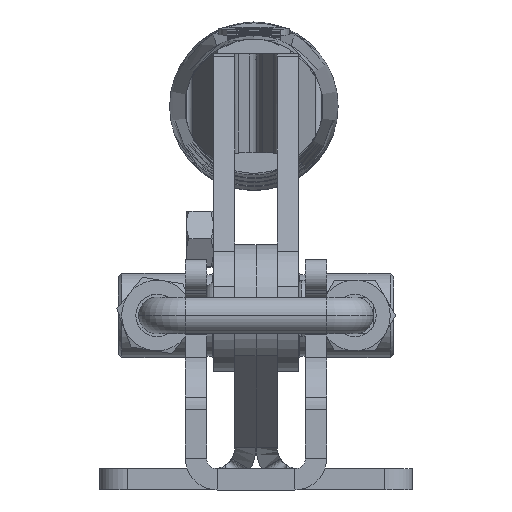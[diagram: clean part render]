
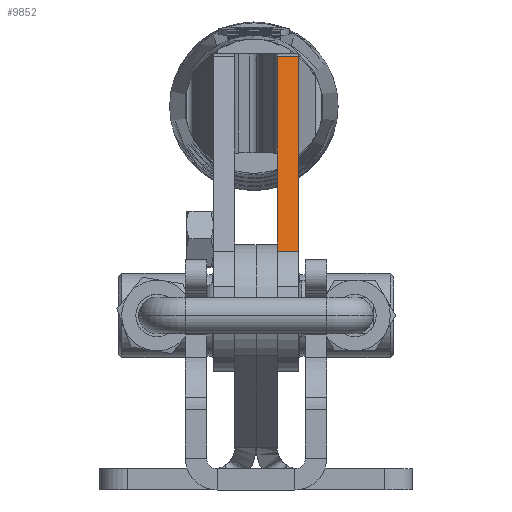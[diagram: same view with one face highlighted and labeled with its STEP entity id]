
A CAD part, left-side view. The second image highlights one B-rep face of the part: STEP entity #9852.
In plain terms, the highlighted cylindrical face has radius 6256.28 mm (diameter 12512.6 mm), a partial arc.
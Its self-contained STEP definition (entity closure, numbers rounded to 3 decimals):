
#1374 = ORIENTED_EDGE ( 'NONE', *, *, #13507, .T. ) ;
#2832 = FACE_OUTER_BOUND ( 'NONE', #13557, .T. ) ;
#3952 = CIRCLE ( 'NONE', #13346, 6256.276 ) ;
#4722 = ORIENTED_EDGE ( 'NONE', *, *, #26064, .T. ) ;
#4768 = DIRECTION ( 'NONE',  ( 0., 0., -1. ) ) ;
#5700 = CARTESIAN_POINT ( 'NONE',  ( 3.902, 8.11, 3. ) ) ;
#5793 = CARTESIAN_POINT ( 'NONE',  ( 2716.185, 5645.886, 3. ) ) ;
#6659 = ORIENTED_EDGE ( 'NONE', *, *, #20750, .T. ) ;
#6880 = CARTESIAN_POINT ( 'NONE',  ( 3.902, 8.11, 10. ) ) ;
#6916 = CYLINDRICAL_SURFACE ( 'NONE', #10610, 6256.276 ) ;
#8661 = CARTESIAN_POINT ( 'NONE',  ( -52.695, 35.69, 0. ) ) ;
#8808 = CARTESIAN_POINT ( 'NONE',  ( -52.695, 35.69, 3. ) ) ;
#9852 = ADVANCED_FACE ( 'NONE', ( #2832 ), #6916, .F. ) ;
#10501 = CARTESIAN_POINT ( 'NONE',  ( 2716.185, 5645.886, 0. ) ) ;
#10610 = AXIS2_PLACEMENT_3D ( 'NONE', #11259, #11392, #17700 ) ;
#11071 = LINE ( 'NONE', #6880, #22123 ) ;
#11129 = VERTEX_POINT ( 'NONE', #5700 ) ;
#11231 = EDGE_CURVE ( 'NONE', #24069, #16251, #3952, .T. ) ;
#11259 = CARTESIAN_POINT ( 'NONE',  ( 2716.185, 5645.886, 10. ) ) ;
#11392 = DIRECTION ( 'NONE',  ( 0., 0., -1. ) ) ;
#13055 = AXIS2_PLACEMENT_3D ( 'NONE', #5793, #25131, #24722 ) ;
#13346 = AXIS2_PLACEMENT_3D ( 'NONE', #10501, #14864, #23544 ) ;
#13507 = EDGE_CURVE ( 'NONE', #16251, #22805, #18627, .T. ) ;
#13557 = EDGE_LOOP ( 'NONE', ( #27420, #1374, #4722, #6659 ) ) ;
#14864 = DIRECTION ( 'NONE',  ( 0., 0., -1. ) ) ;
#15516 = VECTOR ( 'NONE', #20459, 1000. ) ;
#16251 = VERTEX_POINT ( 'NONE', #8661 ) ;
#17700 = DIRECTION ( 'NONE',  ( -1., 0., 0. ) ) ;
#18415 = CIRCLE ( 'NONE', #13055, 6256.276 ) ;
#18627 = LINE ( 'NONE', #27554, #15516 ) ;
#20459 = DIRECTION ( 'NONE',  ( 0., 0., 1. ) ) ;
#20750 = EDGE_CURVE ( 'NONE', #11129, #24069, #11071, .T. ) ;
#22123 = VECTOR ( 'NONE', #4768, 1000. ) ;
#22805 = VERTEX_POINT ( 'NONE', #8808 ) ;
#23544 = DIRECTION ( 'NONE',  ( -1., 0., 0. ) ) ;
#24069 = VERTEX_POINT ( 'NONE', #27543 ) ;
#24722 = DIRECTION ( 'NONE',  ( 1., 0., 0. ) ) ;
#25131 = DIRECTION ( 'NONE',  ( 0., 0., 1. ) ) ;
#26064 = EDGE_CURVE ( 'NONE', #22805, #11129, #18415, .T. ) ;
#27420 = ORIENTED_EDGE ( 'NONE', *, *, #11231, .T. ) ;
#27543 = CARTESIAN_POINT ( 'NONE',  ( 3.902, 8.11, 0. ) ) ;
#27554 = CARTESIAN_POINT ( 'NONE',  ( -52.695, 35.69, 10. ) ) ;
